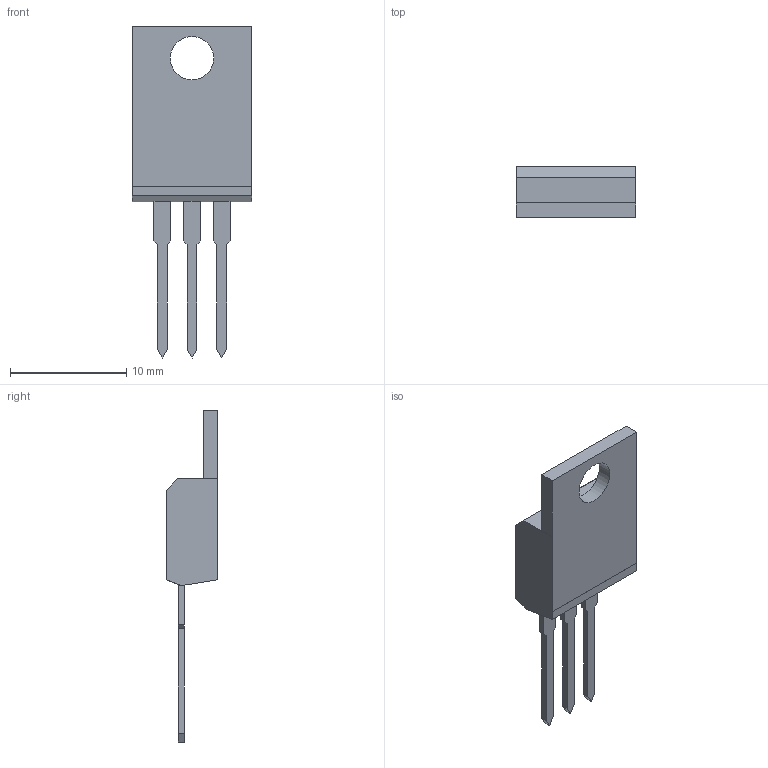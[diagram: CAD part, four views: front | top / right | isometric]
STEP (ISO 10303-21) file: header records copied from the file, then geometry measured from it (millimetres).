
FILE_DESCRIPTION(/* description */ ('STEP AP242','CAx-IF Rec.Pracs.---Representation and Presentation of Product Manufacturing Information (PMI)---4.0---2014-10-13','CAx-IF Rec.Pracs.---3D Tessellated Geometry---0.4---2014-09-14','2;1'),/* implementation_level */ '2;1');
FILE_NAME(/* name */ 'Arm Assembly - TO-220-3_Vertical',/* time_stamp */ '2025-06-20T22:34:18Z',/* author */ (''),/* organization */ (''),/* preprocessor_version */ 'ST-DEVELOPER v20',/* originating_system */ 'ONSHAPE BY PTC INC, 1.199',/* authorisation */ ' ');
FILE_SCHEMA (('AP242_MANAGED_MODEL_BASED_3D_ENGINEERING_MIM_LF { 1 0 10303 442 1 1 4 }'));
Length unit declared in the file: metre
Products named in the file (1): TO-220-3_Vertical
Bounding box: 10.25 x 4.46 x 28.52 mm (x, y, z)
Volume: 486.8 mm3; surface area: 594.5 mm2
Topology: 1 solids, 1 shells, 48 faces, 138 edges, 92 vertices
Faces by surface type: plane 47, cylinder 1
Full cylindrical faces by diameter (mm): 3.735 x1
Entity records: 1622 total; most frequent: CARTESIAN_POINT 278, ORIENTED_EDGE 274, DIRECTION 237, EDGE_CURVE 137, LINE 135, VECTOR 135, VERTEX_POINT 92, EDGE_LOOP 51
